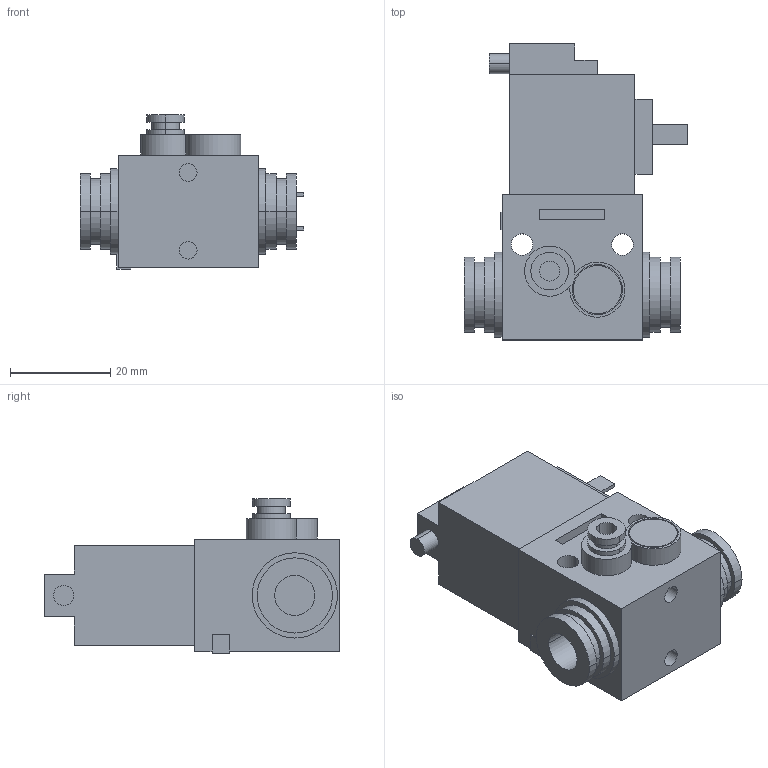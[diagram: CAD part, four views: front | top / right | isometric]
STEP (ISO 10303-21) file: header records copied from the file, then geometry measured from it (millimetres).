
FILE_DESCRIPTION((''),'2;1');
FILE_NAME('5724970220','2015-07-29T',('vol1hc'),(''),'PRO/ENGINEER BY PARAMETRIC TECHNOLOGY CORPORATION, 2012421','PRO/ENGINEER BY PARAMETRIC TECHNOLOGY CORPORATION, 2012421','');
FILE_SCHEMA(('CONFIG_CONTROL_DESIGN','SHAPE_APPEARANCE_LAYERS_GROUPS'));
Length unit declared in the file: millimetre
Products named in the file (1): 5724970220
Bounding box: 44.5 x 59 x 30.75 mm (x, y, z)
Volume: 33490.8 mm3; surface area: 9719.3 mm2
Topology: 1 solids, 1 shells, 115 faces, 258 edges, 172 vertices
Faces by surface type: plane 69, cylinder 46
Entity records: 3282 total; most frequent: DIRECTION 580, CARTESIAN_POINT 545, ORIENTED_EDGE 516, EDGE_CURVE 258, AXIS2_PLACEMENT_3D 207, VERTEX_POINT 172, VECTOR 166, LINE 166
